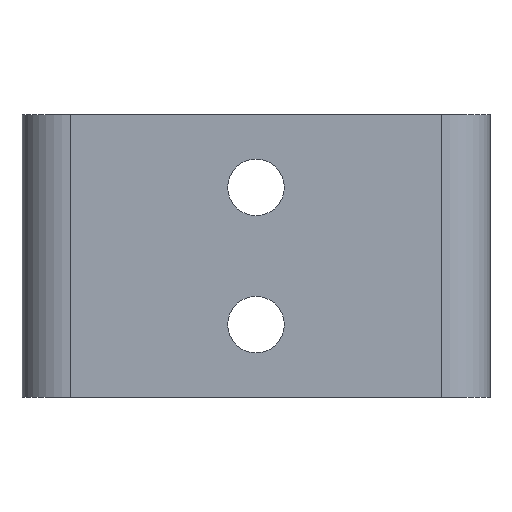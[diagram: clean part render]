
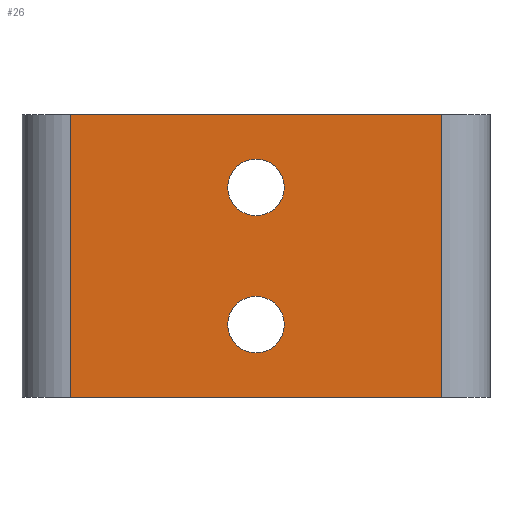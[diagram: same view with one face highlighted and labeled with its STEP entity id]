
A CAD part, front view. The second image highlights one B-rep face of the part: STEP entity #26.
In plain terms, the highlighted planar face has unit normal (0, -1, 0).
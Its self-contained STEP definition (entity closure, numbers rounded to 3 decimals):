
#12 = DIRECTION ( 'NONE',  ( 1., 0., 0. ) ) ;
#16 = CARTESIAN_POINT ( 'NONE',  ( 23., 0., -17.5 ) ) ;
#17 = EDGE_CURVE ( 'NONE', #390, #268, #182, .T. ) ;
#19 = EDGE_LOOP ( 'NONE', ( #384, #152, #200, #68 ) ) ;
#22 = DIRECTION ( 'NONE',  ( 0., 0., 1. ) ) ;
#23 = EDGE_CURVE ( 'NONE', #268, #155, #74, .T. ) ;
#26 = ADVANCED_FACE ( 'NONE', ( #88, #303, #184 ), #399, .T. ) ;
#35 = VECTOR ( 'NONE', #145, 1000. ) ;
#43 = VECTOR ( 'NONE', #12, 1000. ) ;
#46 = DIRECTION ( 'NONE',  ( 0., 0., 1. ) ) ;
#51 = CARTESIAN_POINT ( 'NONE',  ( -23., 0., -17.5 ) ) ;
#52 = AXIS2_PLACEMENT_3D ( 'NONE', #301, #334, #140 ) ;
#57 = VERTEX_POINT ( 'NONE', #208 ) ;
#68 = ORIENTED_EDGE ( 'NONE', *, *, #398, .T. ) ;
#74 = LINE ( 'NONE', #236, #35 ) ;
#75 = LINE ( 'NONE', #16, #209 ) ;
#76 = VECTOR ( 'NONE', #22, 1000. ) ;
#88 = FACE_BOUND ( 'NONE', #220, .T. ) ;
#120 = AXIS2_PLACEMENT_3D ( 'NONE', #51, #333, #401 ) ;
#121 = CARTESIAN_POINT ( 'NONE',  ( -23., 0., -17.5 ) ) ;
#124 = CIRCLE ( 'NONE', #311, 3.5 ) ;
#140 = DIRECTION ( 'NONE',  ( 0., 0., 1. ) ) ;
#144 = LINE ( 'NONE', #297, #43 ) ;
#145 = DIRECTION ( 'NONE',  ( 1., 0., 0. ) ) ;
#152 = ORIENTED_EDGE ( 'NONE', *, *, #17, .F. ) ;
#155 = VERTEX_POINT ( 'NONE', #174 ) ;
#165 = EDGE_LOOP ( 'NONE', ( #252 ) ) ;
#167 = EDGE_CURVE ( 'NONE', #281, #281, #190, .T. ) ;
#174 = CARTESIAN_POINT ( 'NONE',  ( 23., 0., 17.5 ) ) ;
#176 = CARTESIAN_POINT ( 'NONE',  ( 0., 0., 12. ) ) ;
#182 = LINE ( 'NONE', #339, #76 ) ;
#184 = FACE_OUTER_BOUND ( 'NONE', #19, .T. ) ;
#190 = CIRCLE ( 'NONE', #52, 3.5 ) ;
#192 = EDGE_CURVE ( 'NONE', #390, #329, #144, .T. ) ;
#200 = ORIENTED_EDGE ( 'NONE', *, *, #192, .T. ) ;
#208 = CARTESIAN_POINT ( 'NONE',  ( 0., 0., -5. ) ) ;
#209 = VECTOR ( 'NONE', #246, 1000. ) ;
#220 = EDGE_LOOP ( 'NONE', ( #345 ) ) ;
#229 = CARTESIAN_POINT ( 'NONE',  ( -23., 0., 17.5 ) ) ;
#236 = CARTESIAN_POINT ( 'NONE',  ( -23., 0., 17.5 ) ) ;
#246 = DIRECTION ( 'NONE',  ( 0., 0., 1. ) ) ;
#252 = ORIENTED_EDGE ( 'NONE', *, *, #167, .T. ) ;
#268 = VERTEX_POINT ( 'NONE', #229 ) ;
#281 = VERTEX_POINT ( 'NONE', #176 ) ;
#297 = CARTESIAN_POINT ( 'NONE',  ( -23., 0., -17.5 ) ) ;
#301 = CARTESIAN_POINT ( 'NONE',  ( 0., 0., 8.5 ) ) ;
#303 = FACE_BOUND ( 'NONE', #165, .T. ) ;
#307 = DIRECTION ( 'NONE',  ( 0., 1., 0. ) ) ;
#311 = AXIS2_PLACEMENT_3D ( 'NONE', #336, #307, #46 ) ;
#320 = CARTESIAN_POINT ( 'NONE',  ( 23., 0., -17.5 ) ) ;
#329 = VERTEX_POINT ( 'NONE', #320 ) ;
#333 = DIRECTION ( 'NONE',  ( 0., -1., 0. ) ) ;
#334 = DIRECTION ( 'NONE',  ( 0., 1., 0. ) ) ;
#336 = CARTESIAN_POINT ( 'NONE',  ( 0., 0., -8.5 ) ) ;
#339 = CARTESIAN_POINT ( 'NONE',  ( -23., 0., -17.5 ) ) ;
#345 = ORIENTED_EDGE ( 'NONE', *, *, #393, .T. ) ;
#384 = ORIENTED_EDGE ( 'NONE', *, *, #23, .F. ) ;
#390 = VERTEX_POINT ( 'NONE', #121 ) ;
#393 = EDGE_CURVE ( 'NONE', #57, #57, #124, .T. ) ;
#398 = EDGE_CURVE ( 'NONE', #329, #155, #75, .T. ) ;
#399 = PLANE ( 'NONE',  #120 ) ;
#401 = DIRECTION ( 'NONE',  ( 0., 0., -1. ) ) ;
